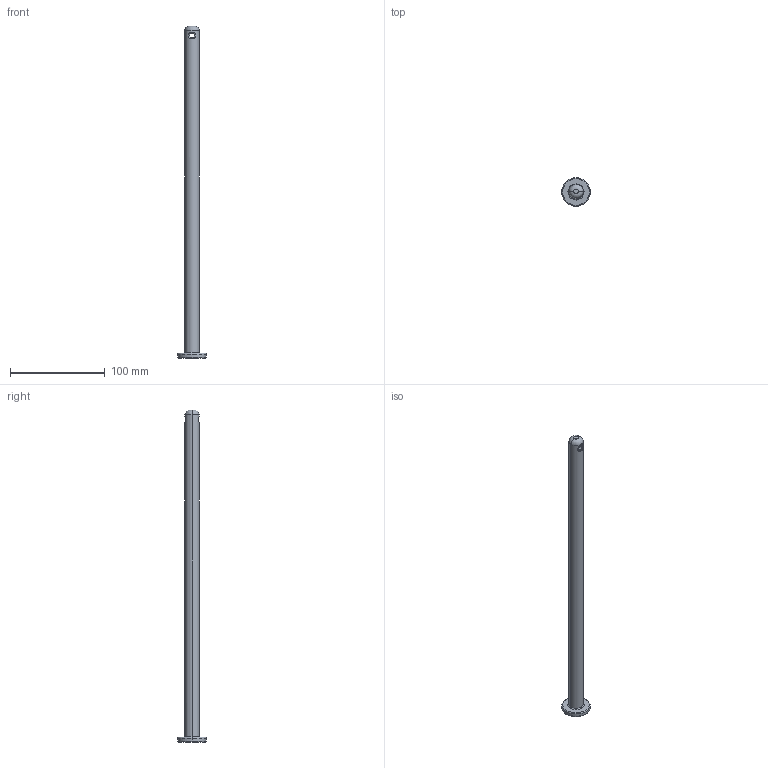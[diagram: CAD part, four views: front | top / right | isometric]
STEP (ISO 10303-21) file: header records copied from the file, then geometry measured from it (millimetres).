
FILE_DESCRIPTION (( 'STEP AP203' ), '1' );
FILE_NAME ('Separator_rod.step', '2026-06-05T03:32:58', ( '' ), ( '' ), 'SwSTEP 2.0', 'SolidWorks 2024', '' );
FILE_SCHEMA (( 'CONFIG_CONTROL_DESIGN' ));
Length unit declared in the file: millimetre
Products named in the file (1): Separator_rod
Bounding box: 30 x 30 x 350 mm (x, y, z)
Volume: 63927.9 mm3; surface area: 18099.2 mm2
Topology: 1 solids, 1 shells, 21 faces, 46 edges, 28 vertices
Faces by surface type: torus 8, cylinder 6, bspline 4, plane 3
Entity records: 1309 total; most frequent: CARTESIAN_POINT 780, DIRECTION 98, ORIENTED_EDGE 92, EDGE_CURVE 46, AXIS2_PLACEMENT_3D 46, VERTEX_POINT 28, CIRCLE 28, EDGE_LOOP 24
